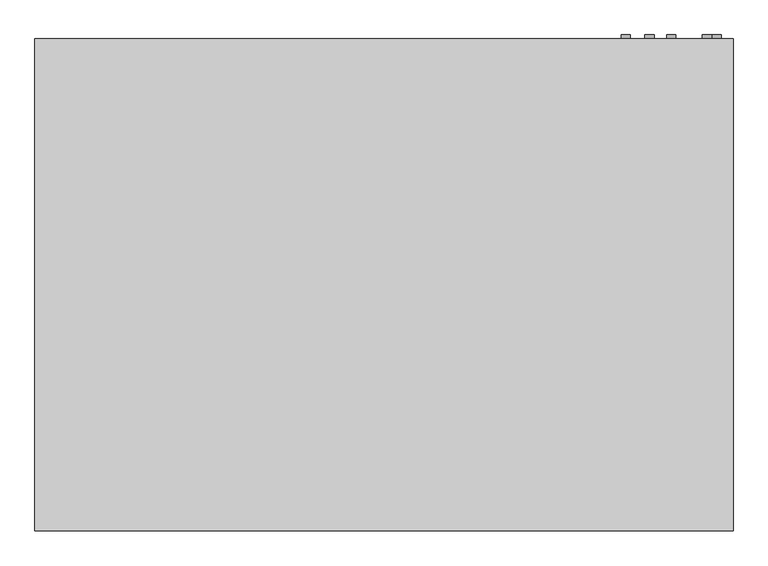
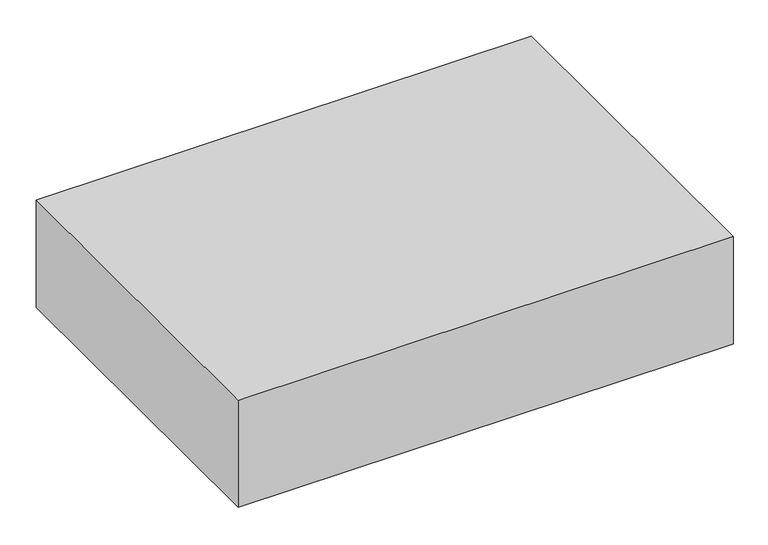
"""IFC4 building model written with IfcOpenShell, lengths in millimetres: proxy geometry, Exposed_Horizontal_Fan_Coil_Unit_-_42CGB_-_CARRIER_-_4-Pipe_BS-BR_RH_2022 : Size 04 - 277v/60Hz/1Ph - 4/1 Coil."""

from ifc_helpers import new_model, si_unit, point, frame, frame_2d, origin, place, context, project, spatial, polyline, circle_curve, trimmed, segment, composite_curve, outline, extrude, source, transform, mapped, element, save


def mechanical_equipment_150578db(model_context):
    return source(origin(), model_context, "Body", "SweptSolid", [
        extrude(outline(polyline([(481.0125, -465.1375), (481.0125, -611.1875), (-176.2125, -611.1875), (-176.2125, -465.1375), (481.0125, -465.1375)])), frame((0.0, 0.0, -285.75), z_axis=(0.0, 0.0, 1.0), x_axis=(1.0, 0.0, 0.0)), (0.0, 0.0, 1.0), 6.35),
        extrude(outline(composite_curve([segment(trimmed(circle_curve(frame_2d((-85.725, 733.425)), 7.9375), [point((-85.725, 741.3625))], [point((-85.725, 725.4875))], False, "CARTESIAN"), True, "CONTINUOUS"), segment(trimmed(circle_curve(frame_2d((-85.725, 733.425)), 7.9375), [point((-85.725, 725.4875))], [point((-85.725, 741.3625))], False, "CARTESIAN"), True, "CONTINUOUS")], self_intersect=False)), frame((0.0, 192.0875, 0.0), z_axis=(0.0, 1.0, 0.0), x_axis=(0.0, 0.0, 1.0)), (0.0, 0.0, 1.0), 6.35),
        extrude(outline(composite_curve([segment(trimmed(circle_curve(frame_2d((-44.45, 654.05)), 7.9375), [point((-44.45, 661.9875))], [point((-44.45, 646.1125))], False, "CARTESIAN"), True, "CONTINUOUS"), segment(trimmed(circle_curve(frame_2d((-44.45, 654.05)), 7.9375), [point((-44.45, 646.1125))], [point((-44.45, 661.9875))], False, "CARTESIAN"), True, "CONTINUOUS")], self_intersect=False)), frame((0.0, 192.0875, 0.0), z_axis=(0.0, 1.0, 0.0), x_axis=(0.0, 0.0, 1.0)), (0.0, 0.0, 1.0), 6.35),
        extrude(outline(composite_curve([segment(trimmed(circle_curve(frame_2d((-95.25, 615.95)), 7.9375), [point((-95.25, 623.8875))], [point((-95.25, 608.0125))], False, "CARTESIAN"), True, "CONTINUOUS"), segment(trimmed(circle_curve(frame_2d((-95.25, 615.95)), 7.9375), [point((-95.25, 608.0125))], [point((-95.25, 623.8875))], False, "CARTESIAN"), True, "CONTINUOUS")], self_intersect=False)), frame((0.0, 192.0875, 0.0), z_axis=(0.0, 1.0, 0.0), x_axis=(0.0, 0.0, 1.0)), (0.0, 0.0, 1.0), 6.35),
        extrude(outline(composite_curve([segment(trimmed(circle_curve(frame_2d((-60.325, 574.675)), 7.9375), [point((-60.325, 582.6125))], [point((-60.325, 566.7375))], False, "CARTESIAN"), True, "CONTINUOUS"), segment(trimmed(circle_curve(frame_2d((-60.325, 574.675)), 7.9375), [point((-60.325, 566.7375))], [point((-60.325, 582.6125))], False, "CARTESIAN"), True, "CONTINUOUS")], self_intersect=False)), frame((0.0, 192.0875, 0.0), z_axis=(0.0, 1.0, 0.0), x_axis=(0.0, 0.0, 1.0)), (0.0, 0.0, 1.0), 6.35),
        extrude(outline(composite_curve([segment(trimmed(circle_curve(frame_2d((-260.35, 717.55)), 9.525), [point((-260.35, 727.075))], [point((-260.35, 708.025))], False, "CARTESIAN"), True, "CONTINUOUS"), segment(trimmed(circle_curve(frame_2d((-260.35, 717.55)), 9.525), [point((-260.35, 708.025))], [point((-260.35, 727.075))], False, "CARTESIAN"), True, "CONTINUOUS")], self_intersect=False)), frame((0.0, 192.0875, 0.0), z_axis=(0.0, 1.0, 0.0), x_axis=(0.0, 0.0, 1.0)), (0.0, 0.0, 1.0), 6.35),
        extrude(outline(polyline([(-457.2, 192.0875), (762.0, 192.0875), (762.0, -668.3375), (-457.2, -668.3375), (-457.2, 192.0875)])), frame((0.0, 0.0, -279.4), z_axis=(0.0, 0.0, 1.0), x_axis=(1.0, 0.0, 0.0)), (0.0, 0.0, 1.0), 279.4),
        extrude(outline(polyline([(565.15, 115.8875), (565.15, -138.1125), (-260.35, -138.1125), (-260.35, 115.8875), (565.15, 115.8875)])), frame((0.0, 0.0, -285.75), z_axis=(0.0, 0.0, 1.0), x_axis=(1.0, 0.0, 0.0)), (0.0, 0.0, 1.0), 6.35),
    ])


if __name__ == "__main__":
    model = new_model("IFC4")
    model_context = context("Model", 3, world=origin())
    ifc_project = project(units=[si_unit("LENGTHUNIT", "METRE", prefix="MILLI")], contexts=[model_context])
    site = spatial("IfcSite", under=ifc_project)
    building = spatial("IfcBuilding", under=site)
    placement = place(None, origin())
    mechanical_equipment_shape = mechanical_equipment_150578db(model_context)
    element("IfcBuildingElementProxy", 1, Name="Exposed_Horizontal_Fan_Coil_Unit_-_42CGB_-_CARRIER_-_4-Pipe_BS-BR_RH_2022 : Size 04 - 277v/60Hz/1Ph - 4/1 Coil", ObjectType="Exposed_Horizontal_Fan_Coil_Unit_-_42CGB_-_CARRIER_-_4-Pipe_BS-BR_RH_2022 : Size 04 - 277v/60Hz/1Ph - 4/1 Coil", at=placement, inside=building, context=model_context, shape_type="MappedRepresentation", body=[
        mapped(mechanical_equipment_shape, transform((0.0, 0.0, 0.0), x_axis=(1.0, 0.0, 0.0), y_axis=(0.0, 1.0, 0.0), z_axis=(0.0, 0.0, 1.0))),
    ])
    save(model, "model.ifc")
